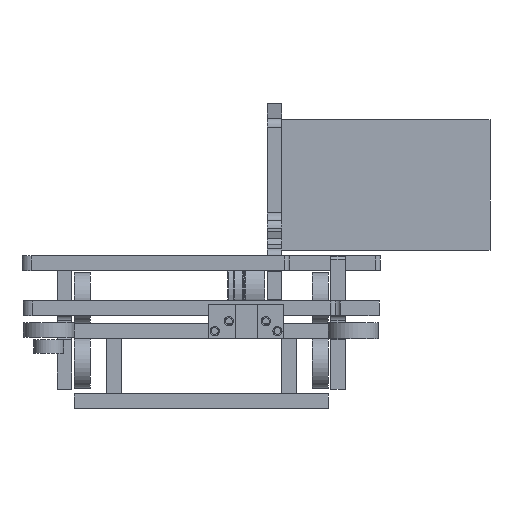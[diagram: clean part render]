
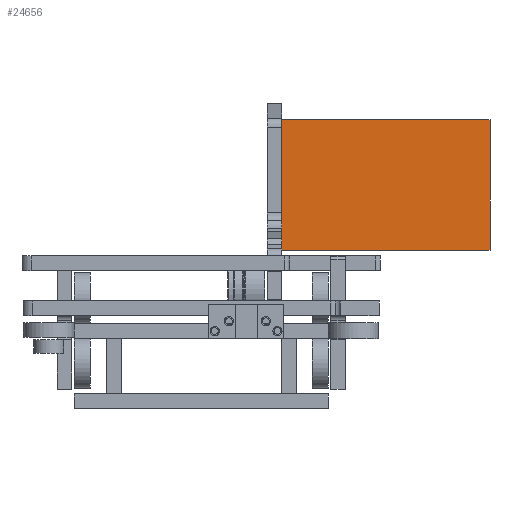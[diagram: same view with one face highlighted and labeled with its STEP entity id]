
A CAD part, left-side view. The second image highlights one B-rep face of the part: STEP entity #24656.
In plain terms, the highlighted planar face has unit normal (-1, 0, 0).
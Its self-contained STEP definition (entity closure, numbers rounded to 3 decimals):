
#754=PLANE('',#26979);
#1707=FACE_OUTER_BOUND('',#3312,.T.);
#3312=EDGE_LOOP('',(#20012,#20013,#20014,#20015));
#5083=LINE('',#40415,#7092);
#5084=LINE('',#40418,#7093);
#5085=LINE('',#40420,#7094);
#5086=LINE('',#40421,#7095);
#7092=VECTOR('',#32833,10.);
#7093=VECTOR('',#32836,10.);
#7094=VECTOR('',#32837,10.);
#7095=VECTOR('',#32838,10.);
#11039=VERTEX_POINT('',#40409);
#11041=VERTEX_POINT('',#40413);
#11042=VERTEX_POINT('',#40417);
#11043=VERTEX_POINT('',#40419);
#14201=EDGE_CURVE('',#11039,#11041,#5083,.T.);
#14202=EDGE_CURVE('',#11039,#11042,#5084,.T.);
#14203=EDGE_CURVE('',#11043,#11041,#5085,.T.);
#14204=EDGE_CURVE('',#11042,#11043,#5086,.T.);
#20012=ORIENTED_EDGE('',*,*,#14202,.F.);
#20013=ORIENTED_EDGE('',*,*,#14201,.T.);
#20014=ORIENTED_EDGE('',*,*,#14203,.F.);
#20015=ORIENTED_EDGE('',*,*,#14204,.F.);
#24656=ADVANCED_FACE('',(#1707),#754,.T.);
#26979=AXIS2_PLACEMENT_3D('',#40416,#32834,#32835);
#32833=DIRECTION('',(0.,-1.,0.));
#32834=DIRECTION('center_axis',(-1.,0.,0.));
#32835=DIRECTION('ref_axis',(0.,0.,-1.));
#32836=DIRECTION('',(0.,0.,1.));
#32837=DIRECTION('',(0.,0.,-1.));
#32838=DIRECTION('',(0.,-1.,0.));
#40409=CARTESIAN_POINT('',(40.3,20.1,31.8));
#40413=CARTESIAN_POINT('',(40.3,-69.9,31.8));
#40415=CARTESIAN_POINT('',(40.3,20.1,31.8));
#40416=CARTESIAN_POINT('Origin',(40.3,20.1,88.2));
#40417=CARTESIAN_POINT('',(40.3,20.1,88.2));
#40418=CARTESIAN_POINT('',(40.3,20.1,31.8));
#40419=CARTESIAN_POINT('',(40.3,-69.9,88.2));
#40420=CARTESIAN_POINT('',(40.3,-69.9,31.8));
#40421=CARTESIAN_POINT('',(40.3,20.1,88.2));
